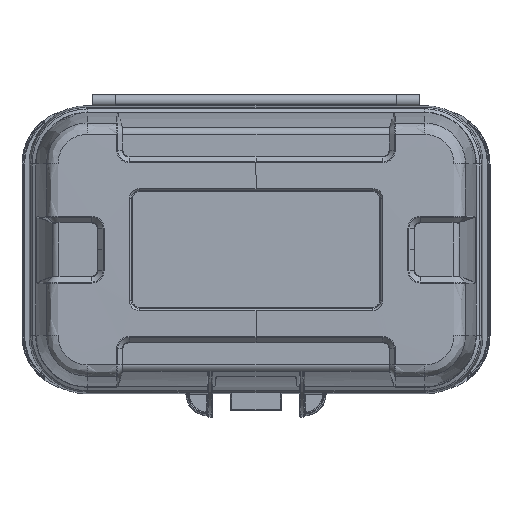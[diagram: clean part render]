
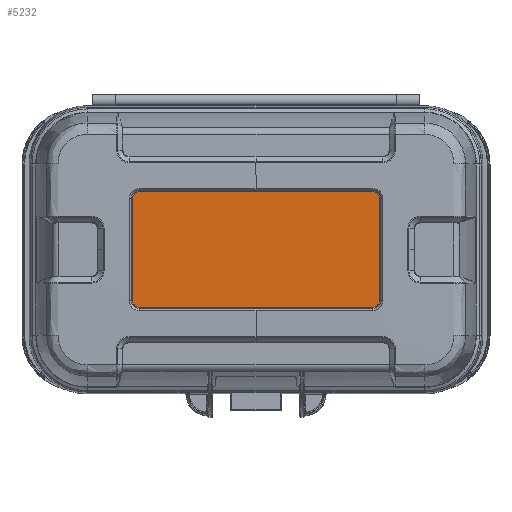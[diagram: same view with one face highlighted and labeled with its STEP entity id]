
A CAD part, top view. The second image highlights one B-rep face of the part: STEP entity #5232.
In plain terms, the highlighted planar face has unit normal (0, 0, 1).
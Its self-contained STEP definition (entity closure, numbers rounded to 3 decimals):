
#2590=FACE_OUTER_BOUND('',#7191,.T.);
#4074=CIRCLE('',#26828,4.586);
#4075=CIRCLE('',#26829,4.586);
#4076=CIRCLE('',#26830,4.586);
#4077=CIRCLE('',#26831,4.586);
#5232=ADVANCED_FACE('',(#2590),#6557,.T.);
#6557=PLANE('',#26832);
#7191=EDGE_LOOP('',(#12456,#12457,#12458,#12459,#12460,#12461,#12462,#12463));
#8736=LINE('',#46013,#9650);
#8737=LINE('',#46018,#9651);
#8738=LINE('',#46022,#9652);
#8739=LINE('',#46026,#9653);
#9650=VECTOR('',#29362,1.);
#9651=VECTOR('',#29365,1.);
#9652=VECTOR('',#29368,1.);
#9653=VECTOR('',#29371,1.);
#12456=ORIENTED_EDGE('',*,*,#21763,.T.);
#12457=ORIENTED_EDGE('',*,*,#21764,.F.);
#12458=ORIENTED_EDGE('',*,*,#21765,.F.);
#12459=ORIENTED_EDGE('',*,*,#21766,.F.);
#12460=ORIENTED_EDGE('',*,*,#21767,.T.);
#12461=ORIENTED_EDGE('',*,*,#21768,.T.);
#12462=ORIENTED_EDGE('',*,*,#21769,.T.);
#12463=ORIENTED_EDGE('',*,*,#21770,.T.);
#19023=VERTEX_POINT('',#46014);
#19024=VERTEX_POINT('',#46015);
#19025=VERTEX_POINT('',#46017);
#19026=VERTEX_POINT('',#46019);
#19027=VERTEX_POINT('',#46021);
#19028=VERTEX_POINT('',#46023);
#19029=VERTEX_POINT('',#46025);
#19030=VERTEX_POINT('',#46027);
#21763=EDGE_CURVE('',#19023,#19024,#8736,.T.);
#21764=EDGE_CURVE('',#19025,#19024,#4074,.T.);
#21765=EDGE_CURVE('',#19026,#19025,#8737,.T.);
#21766=EDGE_CURVE('',#19027,#19026,#4075,.T.);
#21767=EDGE_CURVE('',#19027,#19028,#8738,.T.);
#21768=EDGE_CURVE('',#19028,#19029,#4076,.T.);
#21769=EDGE_CURVE('',#19029,#19030,#8739,.T.);
#21770=EDGE_CURVE('',#19030,#19023,#4077,.T.);
#26828=AXIS2_PLACEMENT_3D('',#46016,#29363,#29364);
#26829=AXIS2_PLACEMENT_3D('',#46020,#29366,#29367);
#26830=AXIS2_PLACEMENT_3D('',#46024,#29369,#29370);
#26831=AXIS2_PLACEMENT_3D('',#46028,#29372,#29373);
#26832=AXIS2_PLACEMENT_3D('',#46029,#29374,#29375);
#29362=DIRECTION('',(-1.,0.,0.));
#29363=DIRECTION('',(0.,0.,-1.));
#29364=DIRECTION('',(-1.,0.,0.));
#29365=DIRECTION('',(0.,1.,0.));
#29366=DIRECTION('',(0.,0.,-1.));
#29367=DIRECTION('',(-1.,0.,0.));
#29368=DIRECTION('',(1.,0.,0.));
#29369=DIRECTION('',(0.,0.,1.));
#29370=DIRECTION('',(1.,0.,0.));
#29371=DIRECTION('',(0.,1.,0.));
#29372=DIRECTION('',(0.,0.,1.));
#29373=DIRECTION('',(1.,0.,0.));
#29374=DIRECTION('',(0.,0.,1.));
#29375=DIRECTION('',(1.,0.,0.));
#46013=CARTESIAN_POINT('',(0.,-62.664,79.));
#46014=CARTESIAN_POINT('',(80.,-62.664,79.));
#46015=CARTESIAN_POINT('',(-80.,-62.664,79.));
#46016=CARTESIAN_POINT('',(-80.,-67.25,79.));
#46017=CARTESIAN_POINT('',(-84.586,-67.25,79.));
#46018=CARTESIAN_POINT('',(-84.586,-67.25,79.));
#46019=CARTESIAN_POINT('',(-84.586,-137.25,79.));
#46020=CARTESIAN_POINT('',(-80.,-137.25,79.));
#46021=CARTESIAN_POINT('',(-80.,-141.836,79.));
#46022=CARTESIAN_POINT('',(80.,-141.836,79.));
#46023=CARTESIAN_POINT('',(80.,-141.836,79.));
#46024=CARTESIAN_POINT('',(80.,-137.25,79.));
#46025=CARTESIAN_POINT('',(84.586,-137.25,79.));
#46026=CARTESIAN_POINT('',(84.586,-67.25,79.));
#46027=CARTESIAN_POINT('',(84.586,-67.25,79.));
#46028=CARTESIAN_POINT('',(80.,-67.25,79.));
#46029=CARTESIAN_POINT('',(0.,0.,79.));
